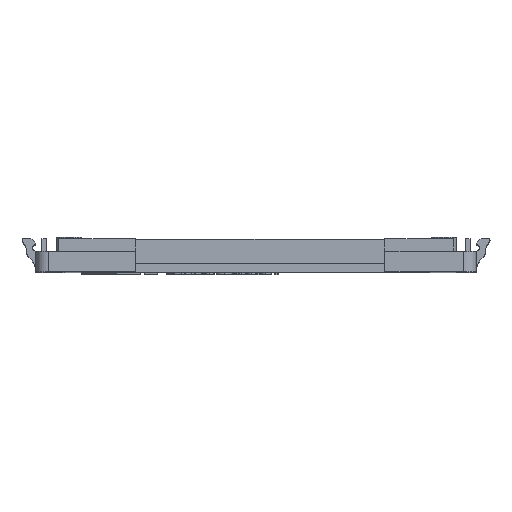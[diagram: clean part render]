
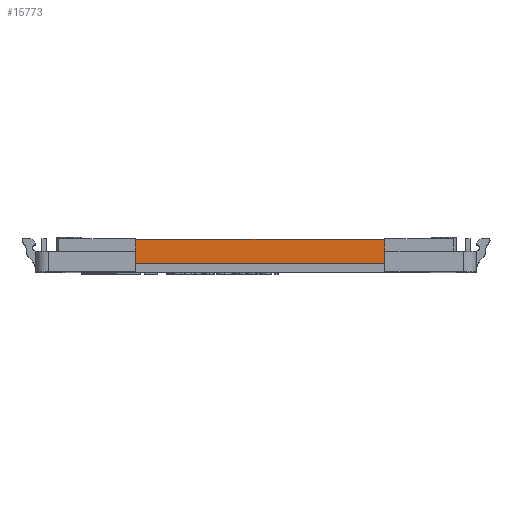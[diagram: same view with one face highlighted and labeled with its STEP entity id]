
A CAD part, top view. The second image highlights one B-rep face of the part: STEP entity #15773.
In plain terms, the highlighted planar face has unit normal (0, 0, 1).
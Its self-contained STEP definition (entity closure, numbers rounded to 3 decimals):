
#222 = CARTESIAN_POINT ( 'NONE',  ( 47.5, -0.657, -50.5 ) ) ;
#440 = LINE ( 'NONE', #1605, #10150 ) ;
#497 = CARTESIAN_POINT ( 'NONE',  ( 47.5, 8., -50.5 ) ) ;
#645 = FACE_OUTER_BOUND ( 'NONE', #9014, .T. ) ;
#894 = VERTEX_POINT ( 'NONE', #2099 ) ;
#1245 = VECTOR ( 'NONE', #14544, 1000. ) ;
#1270 = LINE ( 'NONE', #10709, #5332 ) ;
#1353 = DIRECTION ( 'NONE',  ( -1., 0., 0. ) ) ;
#1605 = CARTESIAN_POINT ( 'NONE',  ( -47.5, 2., -50.5 ) ) ;
#1931 = LINE ( 'NONE', #497, #7214 ) ;
#1970 = CARTESIAN_POINT ( 'NONE',  ( 50.5, 8., -50.5 ) ) ;
#2099 = CARTESIAN_POINT ( 'NONE',  ( -47.5, 2., -50.5 ) ) ;
#2169 = PLANE ( 'NONE',  #4592 ) ;
#2690 = CARTESIAN_POINT ( 'NONE',  ( 47.5, 8., -50.5 ) ) ;
#3140 = VERTEX_POINT ( 'NONE', #9009 ) ;
#3260 = EDGE_CURVE ( 'NONE', #10952, #16854, #13557, .T. ) ;
#3909 = EDGE_CURVE ( 'NONE', #16854, #894, #440, .T. ) ;
#4592 = AXIS2_PLACEMENT_3D ( 'NONE', #17071, #14568, #11960 ) ;
#5332 = VECTOR ( 'NONE', #1353, 1000. ) ;
#5611 = VERTEX_POINT ( 'NONE', #11262 ) ;
#6963 = EDGE_CURVE ( 'NONE', #5611, #894, #1270, .T. ) ;
#7214 = VECTOR ( 'NONE', #7421, 1000. ) ;
#7421 = DIRECTION ( 'NONE',  ( 0., 1., 0. ) ) ;
#7459 = DIRECTION ( 'NONE',  ( 1., 0., 0. ) ) ;
#7913 = ORIENTED_EDGE ( 'NONE', *, *, #15274, .T. ) ;
#9009 = CARTESIAN_POINT ( 'NONE',  ( 47.5, 5., -50.5 ) ) ;
#9014 = EDGE_LOOP ( 'NONE', ( #16640, #17476, #7913, #11877, #10589, #15177 ) ) ;
#9833 = LINE ( 'NONE', #222, #11180 ) ;
#9871 = DIRECTION ( 'NONE',  ( 0., -1., 0. ) ) ;
#10010 = VECTOR ( 'NONE', #7459, 1000. ) ;
#10150 = VECTOR ( 'NONE', #9871, 1000. ) ;
#10589 = ORIENTED_EDGE ( 'NONE', *, *, #3260, .T. ) ;
#10709 = CARTESIAN_POINT ( 'NONE',  ( 50.5, 2., -50.5 ) ) ;
#10952 = VERTEX_POINT ( 'NONE', #14135 ) ;
#11180 = VECTOR ( 'NONE', #11267, 1000. ) ;
#11262 = CARTESIAN_POINT ( 'NONE',  ( 47.5, 2., -50.5 ) ) ;
#11267 = DIRECTION ( 'NONE',  ( 0., 1., 0. ) ) ;
#11802 = CARTESIAN_POINT ( 'NONE',  ( -47.5, 5., -50.5 ) ) ;
#11877 = ORIENTED_EDGE ( 'NONE', *, *, #13959, .F. ) ;
#11960 = DIRECTION ( 'NONE',  ( -1., 0., 0. ) ) ;
#13557 = LINE ( 'NONE', #17305, #1245 ) ;
#13959 = EDGE_CURVE ( 'NONE', #10952, #14052, #14280, .T. ) ;
#14052 = VERTEX_POINT ( 'NONE', #2690 ) ;
#14135 = CARTESIAN_POINT ( 'NONE',  ( -47.5, 8., -50.5 ) ) ;
#14280 = LINE ( 'NONE', #1970, #10010 ) ;
#14544 = DIRECTION ( 'NONE',  ( 0., -1., 0. ) ) ;
#14568 = DIRECTION ( 'NONE',  ( 0., 0., -1. ) ) ;
#15177 = ORIENTED_EDGE ( 'NONE', *, *, #3909, .T. ) ;
#15274 = EDGE_CURVE ( 'NONE', #3140, #14052, #9833, .T. ) ;
#15773 = ADVANCED_FACE ( 'NONE', ( #645 ), #2169, .F. ) ;
#16640 = ORIENTED_EDGE ( 'NONE', *, *, #6963, .F. ) ;
#16854 = VERTEX_POINT ( 'NONE', #11802 ) ;
#17071 = CARTESIAN_POINT ( 'NONE',  ( 50.5, 2., -50.5 ) ) ;
#17305 = CARTESIAN_POINT ( 'NONE',  ( -47.5, 2., -50.5 ) ) ;
#17476 = ORIENTED_EDGE ( 'NONE', *, *, #17732, .T. ) ;
#17732 = EDGE_CURVE ( 'NONE', #5611, #3140, #1931, .T. ) ;
